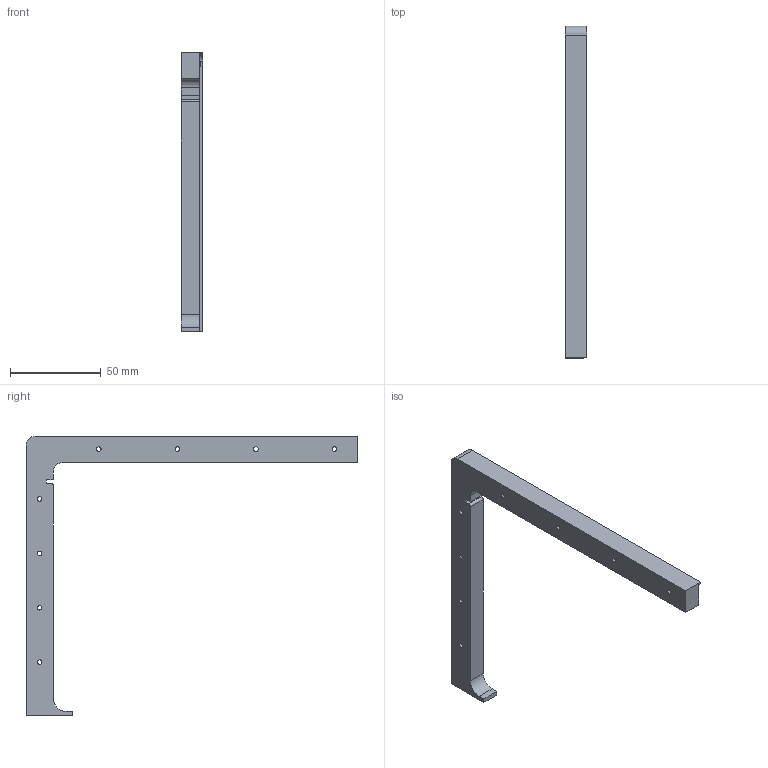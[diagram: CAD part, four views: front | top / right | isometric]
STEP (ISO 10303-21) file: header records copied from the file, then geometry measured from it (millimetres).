
FILE_DESCRIPTION (( 'STEP AP214' ), '1' );
FILE_NAME ('F151149020201_Kinvaro T-Slim S, Anschraubadapter, Stone, rechts.step', '2019-12-03T10:27:38', ( '' ), ( '' ), 'SwSTEP 2.0', 'SolidWorks 2019', '' );
FILE_SCHEMA (( 'AUTOMOTIVE_DESIGN' ));
Length unit declared in the file: millimetre
Products named in the file (1): F151149020201_Kinvaro T-Slim S, Anschraubadapter, Stone, rechts
Bounding box: 11.8 x 183.05 x 154.2 mm (x, y, z)
Volume: 48211.5 mm3; surface area: 18326.6 mm2
Topology: 1 solids, 1 shells, 44 faces, 120 edges, 80 vertices
Faces by surface type: cylinder 25, plane 19
Entity records: 1480 total; most frequent: DIRECTION 260, CARTESIAN_POINT 245, ORIENTED_EDGE 240, EDGE_CURVE 120, AXIS2_PLACEMENT_3D 95, VERTEX_POINT 80, LINE 70, VECTOR 70
